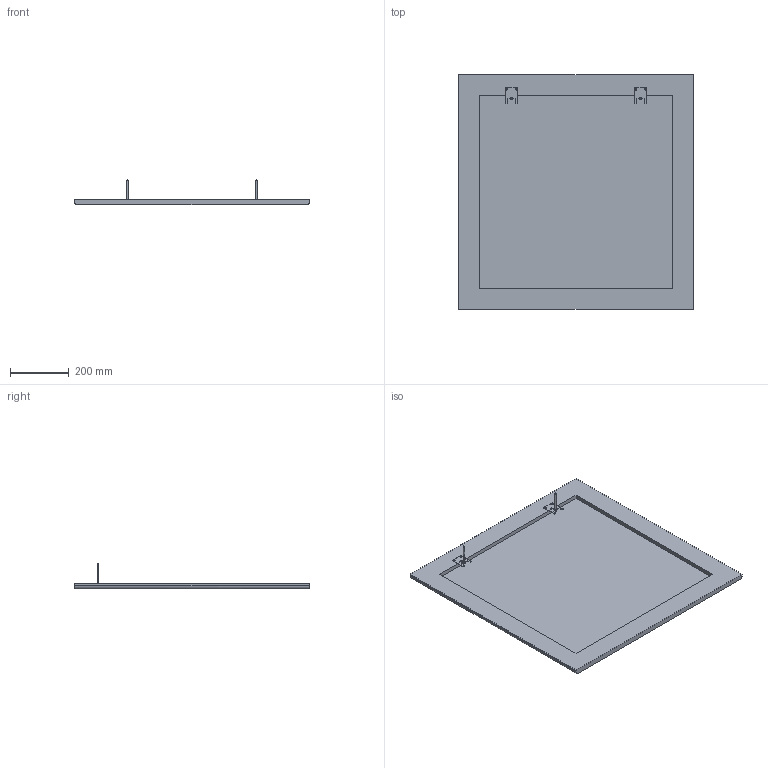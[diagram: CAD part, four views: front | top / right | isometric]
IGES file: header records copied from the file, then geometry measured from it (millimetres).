
Global section: file name: Noble Ayna 3D; native system: Autodesk Inventor 2024; preprocessor: unknown; author: pc19; date: 20250611.093804; units: millimetre
Bounding box: 800 x 800 x 88 mm (x, y, z)
Volume: 5377495.9 mm3; surface area: 1674730.1 mm2
Topology: 6 solids, 6 shells, 225 faces, 598 edges, 382 vertices
Faces by surface type: bspline 225
